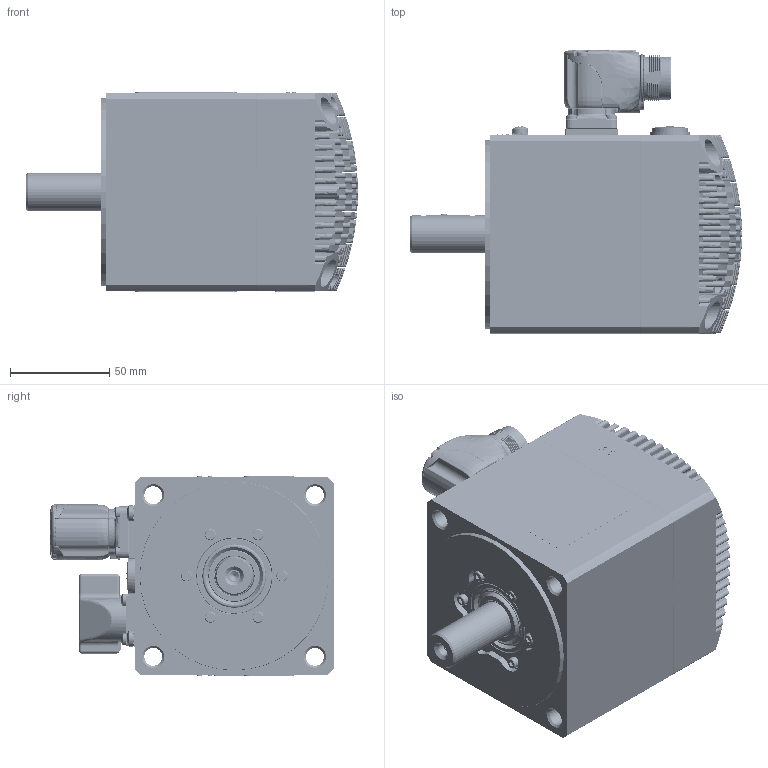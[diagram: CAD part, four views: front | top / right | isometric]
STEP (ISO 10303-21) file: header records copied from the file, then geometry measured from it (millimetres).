
FILE_DESCRIPTION((''),'2;1');
FILE_NAME('32190015646_ASM','2022-04-12T12:21:41',('gabrielec'),(''),'CREO PARAMETRIC BY PTC INC, 2021304','CREO PARAMETRIC BY PTC INC, 2021304','');
FILE_SCHEMA(('AP242_MANAGED_MODEL_BASED_3D_ENGINEERING_MIM_LF { 1 0 10303 442 1 1 4 }'));
Products named in the file (37): 50992N-0; 32149915563_ASM; 22320015066; 50938N-0; 22320015066_ASM; 32050015010_ASM; 32060015505_ASM; 51941N-1; 32090015022_ASM; NRG_001; M3X16_GBT70-1; GB_T862_1; M4X8_GBT818_CU; 32159915173_ASM; 22160015160; MENTOR-1292_9013; CEMBRE_FD9; CEMBRE_2053M16N; 32150015177_ASM; PHOENIX-1605586; 33000015098_AF4_ASM; UNI7687_M3X8_INOX; CAN_OPEN; 33200203857_ASM; 31500203857_AF1_ASM; 50941N-0; UNI7687_M3X6_INOX; UNI5931_M3X6_INOX; 22210015021; 32150015175_ASM; UNI5931_M4X16; LIP_SEAL_TW05; 22250015024; 22250015126; 43500000229; 43500000050; 32190015646_ASM
Assembly tree (64 placements, depth 7):
  32190015646_ASM
    32159915173_ASM
      32149915563_ASM
        50992N-0
      32090015022_ASM
        32060015505_ASM
          32050015010_ASM
            22320015066_ASM
              22320015066
              50938N-0
        51941N-1
      NRG_001  x6
      M3X16_GBT70-1  x6
      GB_T862_1  x2
      M4X8_GBT818_CU  x2
    32150015177_ASM
      22160015160
      MENTOR-1292_9013  x8
      CEMBRE_FD9
      CEMBRE_2053M16N
    33000015098_AF4_ASM
      PHOENIX-1605586
    UNI7687_M3X8_INOX  x4
    31500203857_AF1_ASM
      33200203857_ASM
        CAN_OPEN
    50941N-0  x2
    UNI7687_M3X6_INOX  x3
    UNI5931_M3X6_INOX
    32150015175_ASM
      22210015021
    UNI5931_M4X16  x4
    LIP_SEAL_TW05
    22250015024
    22250015126
    43500000229
    43500000050
Bounding box: 167 x 142.41 x 100.8 mm (x, y, z)
Volume: 499875.7 mm3; surface area: 252659.4 mm2
Topology: 73 solids, 101 shells, 4545 faces, 11416 edges, 7235 vertices
Faces by surface type: plane 1573, cylinder 1082, cone 659, bspline 612, torus 354, sphere 243, revolution 11, extrusion 11
Entity records: 197973 total; most frequent: CARTESIAN_POINT 67811, ORIENTED_EDGE 20136, DIRECTION 18242, PRESENTATION_STYLE_ASSIGNMENT 10534, EDGE_CURVE 10123, STYLED_ITEM 10120, CURVE_STYLE 10049, AXIS2_PLACEMENT_3D 7069
